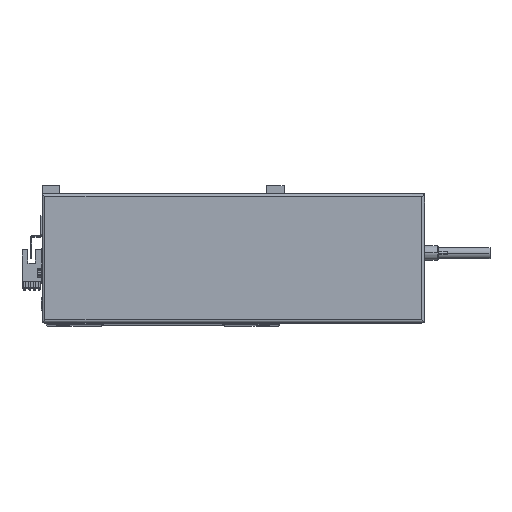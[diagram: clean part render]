
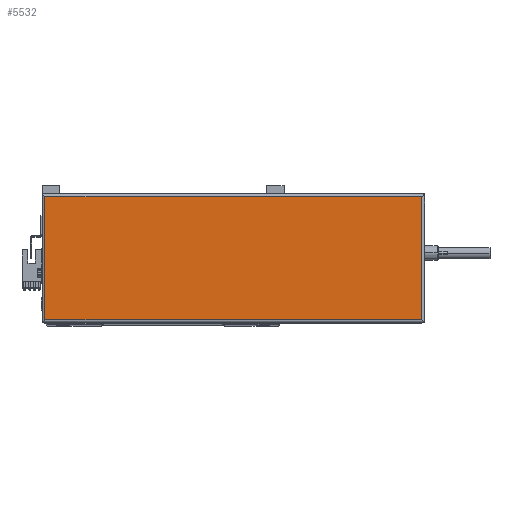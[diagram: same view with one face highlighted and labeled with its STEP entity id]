
A CAD part, top view. The second image highlights one B-rep face of the part: STEP entity #5532.
In plain terms, the highlighted planar face has unit normal (0, 0, 1).
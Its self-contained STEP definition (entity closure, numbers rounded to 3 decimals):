
#2108 = EDGE_CURVE ( 'NONE', #12288, #41863, #4578, .T. ) ;
#3561 = DIRECTION ( 'NONE',  ( 1., 0., 0. ) ) ;
#4275 = CARTESIAN_POINT ( 'NONE',  ( 133.5, 45., 44.8 ) ) ;
#4578 = LINE ( 'NONE', #40708, #39158 ) ;
#5532 = ADVANCED_FACE ( 'NONE', ( #11781 ), #48224, .T. ) ;
#6554 = DIRECTION ( 'NONE',  ( 0., 1., 0. ) ) ;
#8515 = CARTESIAN_POINT ( 'NONE',  ( 2., 0., 44.8 ) ) ;
#8915 = VECTOR ( 'NONE', #12496, 1000. ) ;
#10959 = CARTESIAN_POINT ( 'NONE',  ( 267., 2., 44.8 ) ) ;
#11781 = FACE_OUTER_BOUND ( 'NONE', #15949, .T. ) ;
#12288 = VERTEX_POINT ( 'NONE', #44095 ) ;
#12438 = ORIENTED_EDGE ( 'NONE', *, *, #36258, .T. ) ;
#12496 = DIRECTION ( 'NONE',  ( 0., -1., 0. ) ) ;
#13054 = ORIENTED_EDGE ( 'NONE', *, *, #2108, .T. ) ;
#13126 = DIRECTION ( 'NONE',  ( -1., 0., 0. ) ) ;
#13558 = AXIS2_PLACEMENT_3D ( 'NONE', #4275, #32590, #37373 ) ;
#15949 = EDGE_LOOP ( 'NONE', ( #30527, #13054, #12438, #18833 ) ) ;
#18833 = ORIENTED_EDGE ( 'NONE', *, *, #39437, .T. ) ;
#20719 = VERTEX_POINT ( 'NONE', #39658 ) ;
#21096 = CARTESIAN_POINT ( 'NONE',  ( 2., 2., 44.8 ) ) ;
#28239 = VECTOR ( 'NONE', #6554, 1000. ) ;
#28392 = VECTOR ( 'NONE', #3561, 1000. ) ;
#30527 = ORIENTED_EDGE ( 'NONE', *, *, #34041, .T. ) ;
#31988 = LINE ( 'NONE', #42074, #28239 ) ;
#32590 = DIRECTION ( 'NONE',  ( 0., 0., 1. ) ) ;
#33667 = LINE ( 'NONE', #8515, #8915 ) ;
#34041 = EDGE_CURVE ( 'NONE', #20719, #12288, #31988, .T. ) ;
#36258 = EDGE_CURVE ( 'NONE', #41863, #49527, #33667, .T. ) ;
#37373 = DIRECTION ( 'NONE',  ( 1., 0., 0. ) ) ;
#38880 = LINE ( 'NONE', #10959, #28392 ) ;
#39158 = VECTOR ( 'NONE', #13126, 1000. ) ;
#39437 = EDGE_CURVE ( 'NONE', #49527, #20719, #38880, .T. ) ;
#39658 = CARTESIAN_POINT ( 'NONE',  ( 265., 2., 44.8 ) ) ;
#40708 = CARTESIAN_POINT ( 'NONE',  ( 0., 88., 44.8 ) ) ;
#41863 = VERTEX_POINT ( 'NONE', #50695 ) ;
#42074 = CARTESIAN_POINT ( 'NONE',  ( 265., 90., 44.8 ) ) ;
#44095 = CARTESIAN_POINT ( 'NONE',  ( 265., 88., 44.8 ) ) ;
#48224 = PLANE ( 'NONE',  #13558 ) ;
#49527 = VERTEX_POINT ( 'NONE', #21096 ) ;
#50695 = CARTESIAN_POINT ( 'NONE',  ( 2., 88., 44.8 ) ) ;
